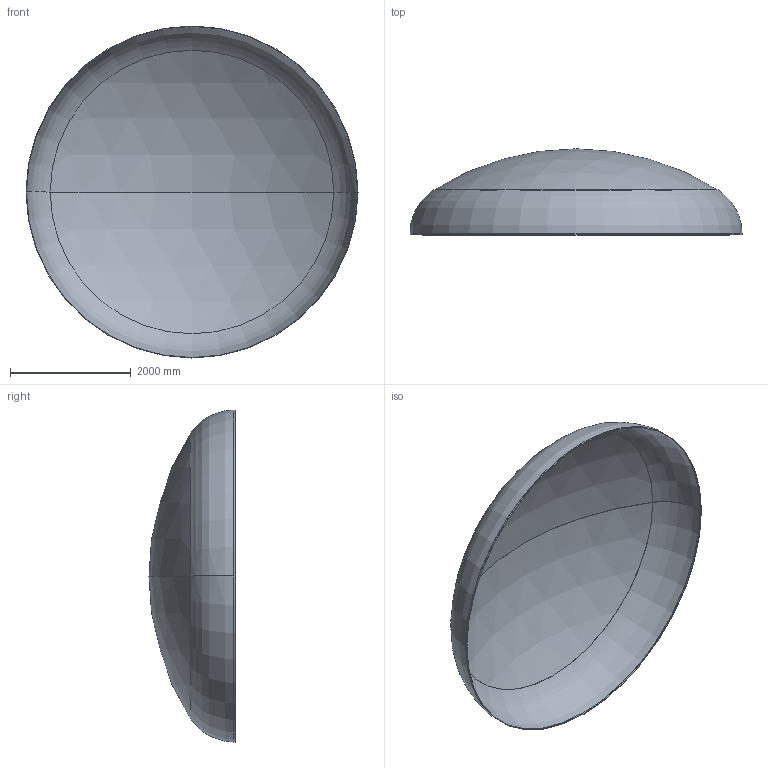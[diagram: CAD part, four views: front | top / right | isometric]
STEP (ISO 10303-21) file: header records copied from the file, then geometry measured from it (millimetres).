
FILE_DESCRIPTION (( 'STEP AP203' ), '1' );
FILE_NAME ('DIN 28013 Korbbogenform_-_Boden DIN 28013 - 5500 x 25 - I - s=7.step', '2016-07-04T10:33:31', ( '' ), ( '' ), 'SwSTEP 2.0', 'SolidWorks 2013', '' );
FILE_SCHEMA (( 'CONFIG_CONTROL_DESIGN' ));
Length unit declared in the file: millimetre
Products named in the file (1): DIN 28013 Korbbogenform_-_Boden DIN 28013 - 5500 x 25 - I - s=7
Bounding box: 5500 x 1426.07 x 5500 mm (x, y, z)
Volume: 232886731 mm3; surface area: 66659938.2 mm2
Topology: 1 solids, 1 shells, 13 faces, 24 edges, 14 vertices
Faces by surface type: torus 4, cylinder 4, sphere 4, plane 1
Entity records: 407 total; most frequent: DIRECTION 72, CARTESIAN_POINT 52, ORIENTED_EDGE 48, AXIS2_PLACEMENT_3D 34, EDGE_CURVE 24, CIRCLE 20, EDGE_LOOP 14, VERTEX_POINT 14
